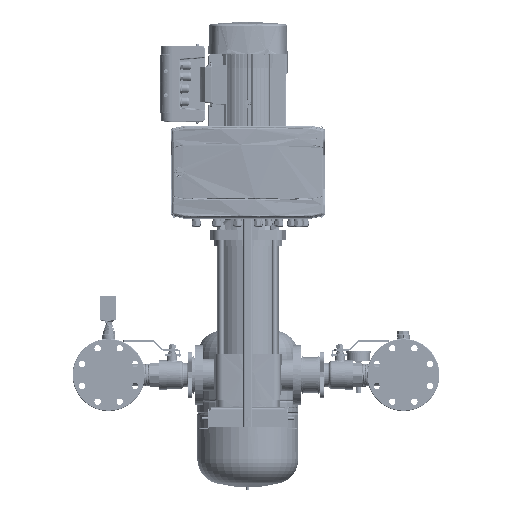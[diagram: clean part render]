
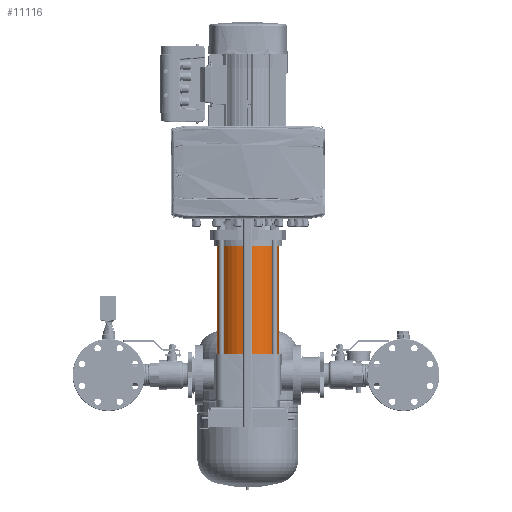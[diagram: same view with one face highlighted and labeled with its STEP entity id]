
A CAD part, left-side view. The second image highlights one B-rep face of the part: STEP entity #11116.
In plain terms, the highlighted cylindrical face has radius 85.35 mm (diameter 170.7 mm), a partial arc.
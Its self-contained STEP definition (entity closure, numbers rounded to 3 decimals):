
#11046=CARTESIAN_POINT('Axis2P3D Location',(329.,0.,0.)) ;
#11050=CARTESIAN_POINT('Vertex',(329.,-85.35,0.)) ;
#11052=CARTESIAN_POINT('Vertex',(329.,85.35,0.)) ;
#11073=CARTESIAN_POINT('Axis2P3D Location',(0.,0.,0.)) ;
#11078=CARTESIAN_POINT('Line Origine',(0.,-85.35,0.)) ;
#11082=CARTESIAN_POINT('Vertex',(0.,-85.35,0.)) ;
#11089=CARTESIAN_POINT('Vertex',(0.,85.35,0.)) ;
#11092=CARTESIAN_POINT('Line Origine',(0.,85.35,0.)) ;
#11105=CARTESIAN_POINT('Axis2P3D Location',(0.,0.,0.)) ;
#11080=VECTOR('Line Direction',#11079,1.) ;
#11094=VECTOR('Line Direction',#11093,1.) ;
#11047=DIRECTION('Axis2P3D Direction',(-1.,0.,0.)) ;
#11074=DIRECTION('Axis2P3D Direction',(1.,0.,0.)) ;
#11075=DIRECTION('Axis2P3D XDirection',(0.,-1.,0.)) ;
#11079=DIRECTION('Vector Direction',(1.,0.,0.)) ;
#11093=DIRECTION('Vector Direction',(1.,0.,0.)) ;
#11106=DIRECTION('Axis2P3D Direction',(1.,0.,0.)) ;
#11048=AXIS2_PLACEMENT_3D('Circle Axis2P3D',#11046,#11047,$) ;
#11076=AXIS2_PLACEMENT_3D('Cylinder Axis2P3D',#11073,#11074,#11075) ;
#11107=AXIS2_PLACEMENT_3D('Circle Axis2P3D',#11105,#11106,$) ;
#11081=LINE('Line',#11078,#11080) ;
#11095=LINE('Line',#11092,#11094) ;
#11049=CIRCLE('generated circle',#11048,85.35) ;
#11108=CIRCLE('generated circle',#11107,85.35) ;
#11077=CYLINDRICAL_SURFACE('generated cylinder',#11076,85.35) ;
#11054=EDGE_CURVE('',#11051,#11053,#11049,.T.) ;
#11084=EDGE_CURVE('',#11051,#11083,#11081,.F.) ;
#11096=EDGE_CURVE('',#11090,#11053,#11095,.T.) ;
#11109=EDGE_CURVE('',#11083,#11090,#11108,.F.) ;
#11111=ORIENTED_EDGE('',*,*,#11096,.F.) ;
#11112=ORIENTED_EDGE('',*,*,#11109,.F.) ;
#11113=ORIENTED_EDGE('',*,*,#11084,.F.) ;
#11114=ORIENTED_EDGE('',*,*,#11054,.T.) ;
#11110=EDGE_LOOP('',(#11111,#11112,#11113,#11114)) ;
#11051=VERTEX_POINT('',#11050) ;
#11053=VERTEX_POINT('',#11052) ;
#11083=VERTEX_POINT('',#11082) ;
#11090=VERTEX_POINT('',#11089) ;
#11116=ADVANCED_FACE('Solid1',(#11115),#11077,.T.) ;
#11115=FACE_OUTER_BOUND('',#11110,.T.) ;
